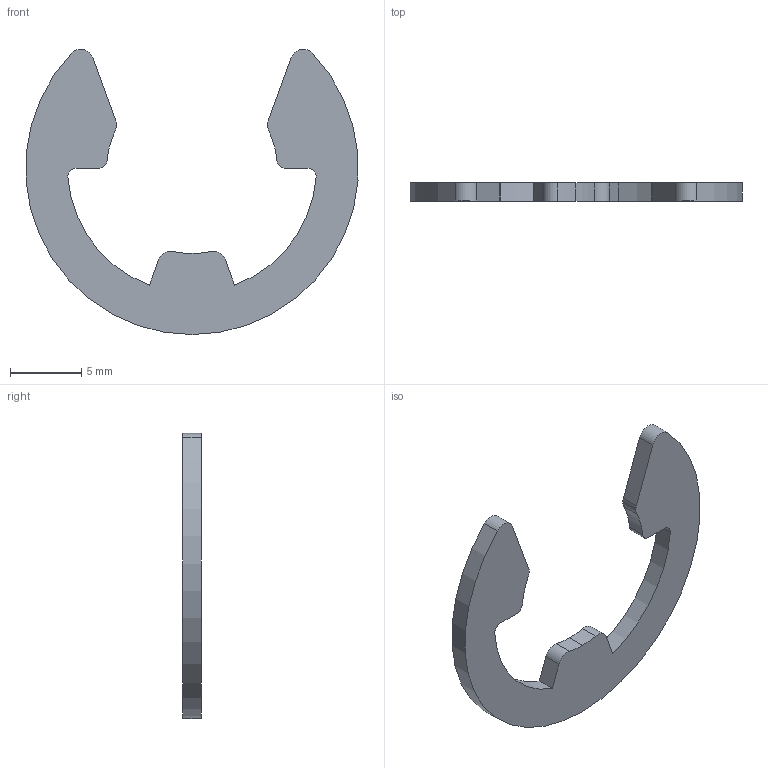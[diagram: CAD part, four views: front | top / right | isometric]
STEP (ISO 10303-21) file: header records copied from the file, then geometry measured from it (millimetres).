
FILE_DESCRIPTION (( 'STEP AP203' ), '1' );
FILE_NAME ('P0382.120-PH.step', '2019-07-25T21:01:19', ( '' ), ( '' ), 'SwSTEP 2.0', 'SolidWorks 2017', '' );
FILE_SCHEMA (( 'CONFIG_CONTROL_DESIGN' ));
Length unit declared in the file: millimetre
Products named in the file (1): P0382.120-PH
Bounding box: 23.34 x 1.3 x 20.05 mm (x, y, z)
Volume: 240.1 mm3; surface area: 511.7 mm2
Topology: 1 solids, 1 shells, 26 faces, 72 edges, 48 vertices
Faces by surface type: cylinder 18, plane 8
Entity records: 929 total; most frequent: DIRECTION 162, CARTESIAN_POINT 147, ORIENTED_EDGE 144, EDGE_CURVE 72, AXIS2_PLACEMENT_3D 63, VERTEX_POINT 48, LINE 36, CIRCLE 36
